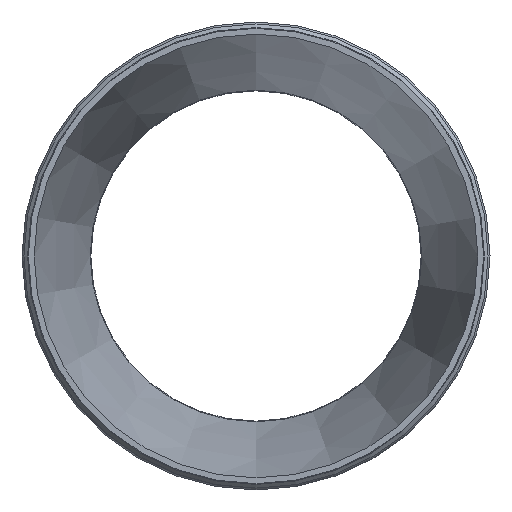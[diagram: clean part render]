
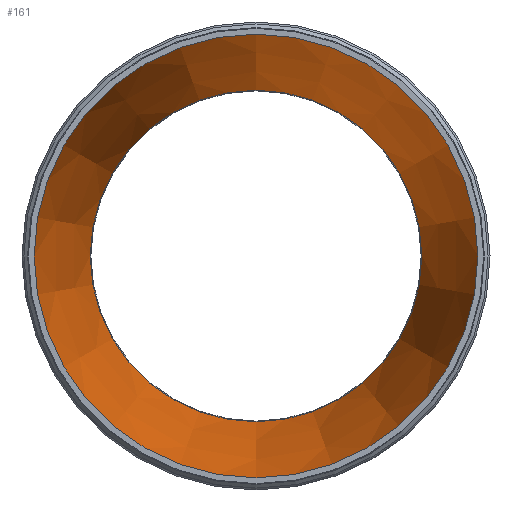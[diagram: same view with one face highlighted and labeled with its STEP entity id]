
A CAD part, left-side view. The second image highlights one B-rep face of the part: STEP entity #161.
In plain terms, the highlighted conical face has half-angle 12.783 degrees and reference radius 133.178 mm.
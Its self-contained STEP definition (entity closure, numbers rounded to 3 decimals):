
#104=CONICAL_SURFACE('',#576,133.178,12.783);
#161=ADVANCED_FACE('',(#231,#232),#104,.F.);
#231=FACE_BOUND('',#307,.T.);
#232=FACE_BOUND('',#308,.T.);
#307=EDGE_LOOP('',(#383));
#308=EDGE_LOOP('',(#384));
#383=ORIENTED_EDGE('',*,*,#469,.F.);
#384=ORIENTED_EDGE('',*,*,#468,.T.);
#430=VERTEX_POINT('',#834);
#431=VERTEX_POINT('',#837);
#468=EDGE_CURVE('',#430,#430,#506,.T.);
#469=EDGE_CURVE('',#431,#431,#507,.T.);
#506=CIRCLE('',#573,133.178);
#507=CIRCLE('',#575,99.397);
#573=AXIS2_PLACEMENT_3D('',#833,#708,#709);
#575=AXIS2_PLACEMENT_3D('',#836,#712,#713);
#576=AXIS2_PLACEMENT_3D('',#838,#714,#715);
#708=DIRECTION('',(-1.,0.,0.));
#709=DIRECTION('',(0.,0.,1.));
#712=DIRECTION('',(-1.,0.,0.));
#713=DIRECTION('',(0.,0.,1.));
#714=DIRECTION('',(-1.,0.,0.));
#715=DIRECTION('',(0.,0.,1.));
#833=CARTESIAN_POINT('',(114.055,0.,0.));
#834=CARTESIAN_POINT('',(114.055,0.,133.178));
#836=CARTESIAN_POINT('',(262.943,0.,0.));
#837=CARTESIAN_POINT('',(262.943,0.,99.397));
#838=CARTESIAN_POINT('',(114.055,0.,0.));
